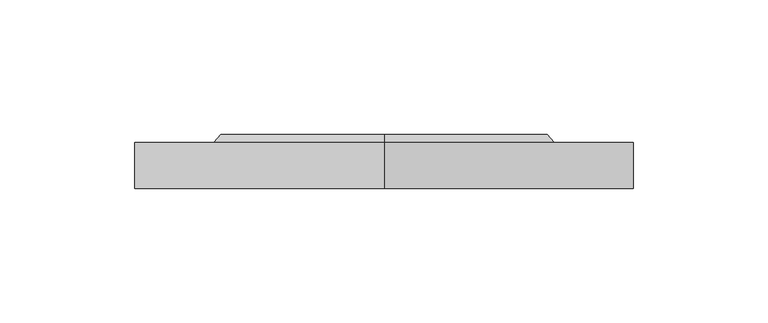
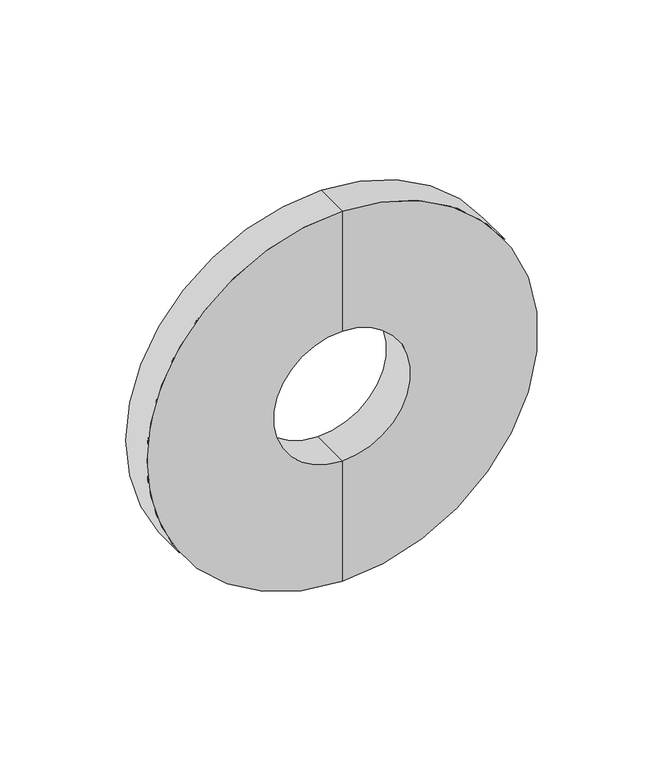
"""IFC4 building model written with IfcOpenShell, lengths in millimetres: pipe fitting geometry, Фланец : Фланец."""

import ifcopenshell
import ifcopenshell.guid

model = None  # the IFC model being written
_history = None  # IfcOwnerHistory: only IFC2X3 demands one
_inside = {}  # id of a spatial element -> (the spatial element, [elements in it])
_under = {}  # id of a project, library or spatial element -> (it, [spatial elements below it])
_declared = {}  # id of a project -> (the project, [libraries it declares])
_typed = {}  # id of a type object -> (the type object, [elements of that type])
_made_of = {}  # id of a material, layer set ... -> (it, [elements and type objects made of it])


def new_model(schema):
    """Start an empty IFC model of exactly this schema.

    Asked for "IFC4X3", IfcOpenShell would pick the latest addendum, in which some entities
    have other attributes; the version numbers below select the first issue.
    IFC2X3 requires an IfcOwnerHistory on every rooted entity: one is made here for all.
    """
    global model, _history
    if schema == "IFC4X3":
        model = ifcopenshell.file(schema_version=(4, 3, 0, 0))
    else:
        model = ifcopenshell.file(schema=schema)
    _inside.clear()
    _under.clear()
    _declared.clear()
    _typed.clear()
    _made_of.clear()
    _history = None
    if model.schema == "IFC2X3":
        org = make("IfcOrganization", Name="unknown")
        user = make(
            "IfcPersonAndOrganization",
            ThePerson=make("IfcPerson", FamilyName="unknown"),
            TheOrganization=org,
        )
        app = make(
            "IfcApplication",
            ApplicationDeveloper=org,
            Version="unknown",
            ApplicationFullName="unknown",
            ApplicationIdentifier="unknown",
        )
        _history = make(
            "IfcOwnerHistory",
            OwningUser=user,
            OwningApplication=app,
            ChangeAction="ADDED",
            CreationDate=0,
        )
    return model


def make(cls, **values):
    """One entity of the class cls with the attributes given. An attribute that is None is left unset."""
    return model.create_entity(
        cls, **{name: value for name, value in values.items() if value is not None}
    )


def rooted(cls, **values):
    """An entity with a GlobalId (a new one), such as an element, a storey or a relation."""
    return make(cls, GlobalId=ifcopenshell.guid.new(), OwnerHistory=_history, **values)


def si_unit(unit_type, name, prefix=None):
    """IfcSIUnit, for example si_unit("LENGTHUNIT", "METRE", prefix="MILLI")."""
    return make("IfcSIUnit", UnitType=unit_type, Prefix=prefix, Name=name)


def assignment(units):
    """IfcUnitAssignment: the units of a project."""
    return None if units is None else make("IfcUnitAssignment", Units=units)


def point(xyz):
    """IfcCartesianPoint."""
    return None if xyz is None else make("IfcCartesianPoint", Coordinates=xyz)


def direction(xyz):
    """IfcDirection."""
    return None if xyz is None else make("IfcDirection", DirectionRatios=xyz)


def frame(location, z_axis=None, x_axis=None):
    """IfcAxis2Placement3D, a coordinate frame: its origin and axes. An axis left out is left unset."""
    return make(
        "IfcAxis2Placement3D",
        Location=point(location),
        Axis=direction(z_axis),
        RefDirection=direction(x_axis),
    )


def origin():
    """The frame at (0, 0, 0) with its axes left unset."""
    return frame((0.0, 0.0, 0.0))


def place(relative_to, where):
    """IfcLocalPlacement: puts the frame where relative to a parent placement (None: the world)."""
    return make(
        "IfcLocalPlacement", PlacementRelTo=relative_to, RelativePlacement=where
    )


def context(
    kind, dimensions, precision=None, world=None, true_north=None, identifier=None
):
    """IfcGeometricRepresentationContext, for example the 3D "Model" context."""
    return make(
        "IfcGeometricRepresentationContext",
        ContextIdentifier=identifier,
        ContextType=kind,
        CoordinateSpaceDimension=dimensions,
        Precision=precision,
        WorldCoordinateSystem=world,
        TrueNorth=true_north,
    )


def project(units=None, contexts=None):
    """IfcProject with its units and contexts."""
    return rooted(
        "IfcProject",
        Name="project",
        RepresentationContexts=contexts,
        UnitsInContext=assignment(units),
    )


def spatial(cls, under=None, at=None, **own):
    """A site, building, storey or space (cls), placed at a placement, below another one or the project."""
    s = rooted(cls, ObjectPlacement=at, **own)
    if under is not None:
        _under.setdefault(under.id(), (under, []))[1].append(s)
    return s


def polyline(points):
    """IfcPolyline through the points."""
    return make("IfcPolyline", Points=[point(p) for p in points])


def circle_curve(where, radius):
    """IfcCircle in the frame where."""
    return make("IfcCircle", Position=where, Radius=radius)


def shape(context_of_items, identifier, shape_type, items):
    """IfcShapeRepresentation: the items that make up one representation, for example the "Body"."""
    return make(
        "IfcShapeRepresentation",
        ContextOfItems=context_of_items,
        RepresentationIdentifier=identifier,
        RepresentationType=shape_type,
        Items=items,
    )


def source(mapping_origin, context_of_items, identifier, shape_type, items):
    """IfcRepresentationMap: a shape defined once, which mapped items show again and again."""
    return make(
        "IfcRepresentationMap",
        MappingOrigin=mapping_origin,
        MappedRepresentation=shape(context_of_items, identifier, shape_type, items),
    )


def transform(
    local_origin,
    x_axis=None,
    y_axis=None,
    z_axis=None,
    scale=None,
    scale2=None,
    scale3=None,
    uniform=True,
):
    """IfcCartesianTransformationOperator3D, or its non-uniform kind. x_axis, y_axis, z_axis: its Axis1, 2, 3."""
    if uniform:
        return make(
            "IfcCartesianTransformationOperator3D",
            Axis1=direction(x_axis),
            Axis2=direction(y_axis),
            LocalOrigin=point(local_origin),
            Scale=scale,
            Axis3=direction(z_axis),
        )
    return make(
        "IfcCartesianTransformationOperator3DnonUniform",
        Axis1=direction(x_axis),
        Axis2=direction(y_axis),
        LocalOrigin=point(local_origin),
        Scale=scale,
        Axis3=direction(z_axis),
        Scale2=scale2,
        Scale3=scale3,
    )


def mapped(mapping_source, mapping_target):
    """IfcMappedItem: shows the shape of a source again, moved by a transform."""
    return make(
        "IfcMappedItem", MappingSource=mapping_source, MappingTarget=mapping_target
    )


def made_of(thing, what):
    """Note that an element or type object is made of a material, layer set ...; save() writes the relation."""
    if what is not None:
        _made_of.setdefault(what.id(), (what, []))[1].append(thing)
    return thing


def element(
    cls,
    number,
    at=None,
    inside=None,
    cuts=None,
    type_object=None,
    material=None,
    context=None,
    identifier="Body",
    shape_type=None,
    held_by="IfcProductDefinitionShape",
    body=None,
    shapes=None,
    **own,
):
    """One element of the class cls, such as IfcWall. Its Tag is "e" and its number.

    at: its placement. inside: the storey or other place that contains it. cuts: it is an
    opening in that element (IfcRelVoidsElement). A single representation is given by context,
    identifier, shape_type and body (its items); several are given by shapes. held_by: the class
    of the entity that holds the representations. save() writes the other relations.
    """
    e = rooted(cls, Tag="e%d" % number, ObjectPlacement=at, **own)
    if body is not None:
        shapes = [shape(context, identifier, shape_type, body)]
    if shapes is not None:
        e.Representation = make(held_by, Representations=shapes)
    if inside is not None:
        _inside.setdefault(inside.id(), (inside, []))[1].append(e)
    if cuts is not None:
        rooted(
            "IfcRelVoidsElement", RelatingBuildingElement=cuts, RelatedOpeningElement=e
        )
    if type_object is not None:
        _typed.setdefault(type_object.id(), (type_object, []))[1].append(e)
    return made_of(e, material)


def aggregate(whole, parts):
    """IfcRelAggregates: a whole, such as a stair, and the parts it consists of."""
    return rooted("IfcRelAggregates", RelatingObject=whole, RelatedObjects=parts)


def save(model, path):
    """Write the relations noted so far, then the file.

    IfcRelAggregates (storeys below a building ...), IfcRelContainedInSpatialStructure (elements
    in a storey), IfcRelDefinesByType, IfcRelAssociatesMaterial and IfcRelDeclares: one each for
    every whole, place, type object, material and project.
    """
    for whole, parts in _under.values():
        aggregate(whole, parts)
    for where, things in _inside.values():
        rooted(
            "IfcRelContainedInSpatialStructure",
            RelatedElements=things,
            RelatingStructure=where,
        )
    for kind, things in _typed.values():
        rooted("IfcRelDefinesByType", RelatedObjects=things, RelatingType=kind)
    for what, things in _made_of.values():
        rooted("IfcRelAssociatesMaterial", RelatedObjects=things, RelatingMaterial=what)
    for by, libraries in _declared.values():
        rooted("IfcRelDeclares", RelatingContext=by, RelatedDefinitions=libraries)
    model.write(path)


def plane_surface(at):
    """IfcPlane: the flat surface through the origin of the frame at, square to its z axis."""
    return make("IfcPlane", Position=at)


def cylinder_surface(at, radius):
    """IfcCylindricalSurface: all points at the distance radius from the z axis of the frame at."""
    return make("IfcCylindricalSurface", Position=at, Radius=radius)


def revolved_surface(curve, axis_point, axis_direction):
    """IfcSurfaceOfRevolution: the curve turned about the line through axis_point along axis_direction."""
    return make(
        "IfcSurfaceOfRevolution",
        SweptCurve=make("IfcArbitraryOpenProfileDef", ProfileType="CURVE", Curve=curve),
        AxisPosition=make("IfcAxis1Placement", Location=point(axis_point), Axis=direction(axis_direction)),
    )


def advanced_brep(points, edges, surfaces, faces):
    """IfcAdvancedBrep: a solid bounded by faces that lie on surfaces and meet in shared edges.

    An edge is (start, end): straight between two places in points (the first is 0);
    or (start, end, curve); or (start, end, curve, False) where it runs against its curve.
    A face is (place in surfaces, loops), or (place, loops, False) where it looks against
    its surface's normal. A loop lists edges by number (the first is 1), with a minus sign
    where the edge is run from its end to its start. The first loop is the outer one.
    """
    corners = [point(p) for p in points]
    vertices = [make("IfcVertexPoint", VertexGeometry=c) for c in corners]
    made = []
    for start, end, *more in edges:
        made.append(
            make(
                "IfcEdgeCurve",
                EdgeStart=vertices[start],
                EdgeEnd=vertices[end],
                EdgeGeometry=more[0] if more else make("IfcPolyline", Points=[corners[start], corners[end]]),
                SameSense=more[1] if len(more) > 1 else True,
            )
        )
    hull = []
    for where, loops, *sense in faces:
        bounds = []
        for j, loop in enumerate(loops):
            ring = [make("IfcOrientedEdge", EdgeElement=made[abs(k) - 1], Orientation=k > 0) for k in loop]
            bounds.append(
                make(
                    "IfcFaceOuterBound" if j == 0 else "IfcFaceBound",
                    Bound=make("IfcEdgeLoop", EdgeList=ring),
                    Orientation=True,
                )
            )
        hull.append(make("IfcAdvancedFace", Bounds=bounds, FaceSurface=surfaces[where], SameSense=sense[0] if sense else True))
    return make("IfcAdvancedBrep", Outer=make("IfcClosedShell", CfsFaces=hull))


def pipe_fitting_40df0e78(model_context):
    return source(origin(), model_context, "Body", "AdvancedBrep", [
        advanced_brep(
        [(0.0, 0.0, -92.5), (0.0, 0.0, 92.5), (0.0, 17.0, 92.5), (0.0, 17.0, -92.5), (0.0, 0.0, -32.5), (0.0, 0.0, 32.5), (0.0, 20.0, -32.5), (0.0, 20.0, 32.5), (0.0, 20.0, -61.0), (0.0, 20.0, 61.0), (0.0, 17.0, -63.5), (0.0, 17.0, 63.5)],
        [
            (0, 1, circle_curve(frame((0.0, 0.0, 0.0), z_axis=(0.0, 1.0, 0.0), x_axis=(0.0, 0.0, 1.0)), 92.5)),
            (1, 2),
            (2, 3, circle_curve(frame((0.0, 17.0, 0.0), z_axis=(0.0, -1.0, 0.0), x_axis=(0.0, 0.0, 1.0)), 92.5)),
            (3, 0),
            (1, 0, circle_curve(frame((0.0, 0.0, 0.0), z_axis=(0.0, 1.0, 0.0), x_axis=(0.0, 0.0, 1.0)), 92.5)),
            (3, 2, circle_curve(frame((0.0, 17.0, 0.0), z_axis=(0.0, -1.0, 0.0), x_axis=(0.0, 0.0, 1.0)), 92.5)),
            (4, 5, circle_curve(frame((0.0, 0.0, 0.0), z_axis=(0.0, 1.0, 0.0), x_axis=(0.0, 0.0, 1.0)), 32.5)),
            (5, 1),
            (0, 4),
            (5, 4, circle_curve(frame((0.0, 0.0, 0.0), z_axis=(0.0, 1.0, 0.0), x_axis=(0.0, 0.0, 1.0)), 32.5)),
            (6, 7, circle_curve(frame((0.0, 20.0, 0.0), z_axis=(0.0, 1.0, 0.0), x_axis=(0.0, 0.0, 1.0)), 32.5)),
            (7, 5),
            (4, 6),
            (7, 6, circle_curve(frame((0.0, 20.0, 0.0), z_axis=(0.0, 1.0, 0.0), x_axis=(0.0, 0.0, 1.0)), 32.5)),
            (8, 9, circle_curve(frame((0.0, 20.0, 0.0), z_axis=(0.0, 1.0, 0.0), x_axis=(0.0, 0.0, 1.0)), 61.0)),
            (9, 7),
            (6, 8),
            (9, 8, circle_curve(frame((0.0, 20.0, 0.0), z_axis=(0.0, 1.0, 0.0), x_axis=(0.0, 0.0, 1.0)), 61.0)),
            (10, 11, circle_curve(frame((0.0, 17.0, 0.0), z_axis=(0.0, 1.0, 0.0), x_axis=(0.0, 0.0, 1.0)), 63.5)),
            (11, 9),
            (8, 10),
            (11, 10, circle_curve(frame((0.0, 17.0, 0.0), z_axis=(0.0, 1.0, 0.0), x_axis=(0.0, 0.0, 1.0)), 63.5)),
            (2, 11),
            (10, 3),
        ],
        [
            cylinder_surface(frame((0.0, -60.0, 0.0), z_axis=(0.0, -1.0, 0.0), x_axis=(0.0, 0.0, 1.0)), 92.5),
            plane_surface(frame((0.0, 0.0, 0.0), z_axis=(0.0, -1.0, 0.0), x_axis=(0.0, 0.0, 1.0))),
            revolved_surface(polyline([(0.0, 0.0, 32.5), (0.0, 20.0, 32.5)]), (0.0, -60.0, 0.0), (0.0, -1.0, 0.0)),
            plane_surface(frame((0.0, 20.0, 0.0), z_axis=(0.0, 1.0, 0.0), x_axis=(0.0, 0.0, 1.0))),
            revolved_surface(polyline([(0.0, 20.0, 61.0), (0.0, 17.0, 63.5)]), (0.0, -60.0, 0.0), (0.0, -1.0, 0.0)),
            plane_surface(frame((0.0, 17.0, 0.0), z_axis=(0.0, 1.0, 0.0), x_axis=(0.0, 0.0, 1.0))),
        ],
        [
            (0, [[1, 2, 3, 4]]),
            (0, [[5, -4, 6, -2]]),
            (1, [[7, 8, -1, 9]]),
            (1, [[10, -9, -5, -8]]),
            (2, [[11, 12, -7, 13]]),
            (2, [[14, -13, -10, -12]]),
            (3, [[15, 16, -11, 17]]),
            (3, [[18, -17, -14, -16]]),
            (4, [[19, 20, -15, 21]]),
            (4, [[22, -21, -18, -20]]),
            (5, [[-3, 23, -19, 24]]),
            (5, [[-6, -24, -22, -23]]),
        ],
    ),
    ])


if __name__ == "__main__":
    model = new_model("IFC4")
    model_context = context("Model", 3, world=origin())
    ifc_project = project(units=[si_unit("LENGTHUNIT", "METRE", prefix="MILLI")], contexts=[model_context])
    site = spatial("IfcSite", under=ifc_project)
    building = spatial("IfcBuilding", under=site)
    placement = place(None, origin())
    pipe_fitting_shape = pipe_fitting_40df0e78(model_context)
    element("IfcPipeFitting", 1, ObjectType="Фланец : Фланец", at=placement, inside=building, context=model_context, shape_type="MappedRepresentation", body=[
        mapped(pipe_fitting_shape, transform((0.0, 0.0, 0.0), x_axis=(1.0, 0.0, 0.0), y_axis=(0.0, 1.0, 0.0), z_axis=(0.0, 0.0, 1.0))),
    ])
    save(model, "model.ifc")
